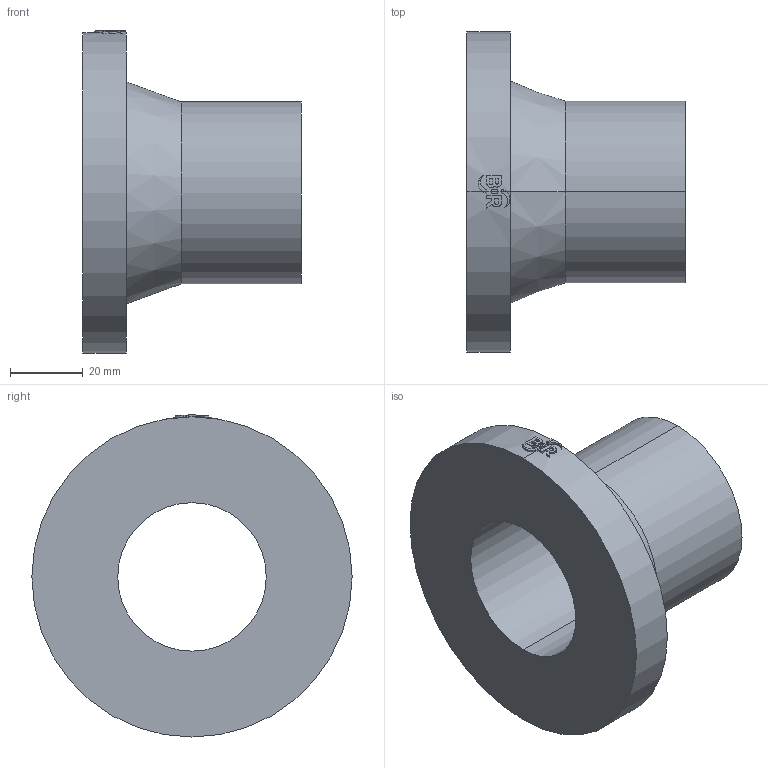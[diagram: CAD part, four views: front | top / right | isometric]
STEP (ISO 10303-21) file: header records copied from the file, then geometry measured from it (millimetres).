
FILE_DESCRIPTION (( 'STEP AP214' ), '1' );
FILE_NAME ('233510F015.STEP', '2018-07-20T12:19:17', ( '' ), ( '' ), 'SwSTEP 2.0', 'SolidWorks 2017', '' );
FILE_SCHEMA (( 'AUTOMOTIVE_DESIGN' ));
Length unit declared in the file: millimetre
Products named in the file (1): 233510F015
Bounding box: 60 x 88 x 88.5 mm (x, y, z)
Volume: 95757.3 mm3; surface area: 27605.9 mm2
Topology: 1 solids, 1 shells, 60 faces, 154 edges, 102 vertices
Faces by surface type: cylinder 29, plane 29, cone 2
Entity records: 2770 total; most frequent: CARTESIAN_POINT 653, ORIENTED_EDGE 308, DIRECTION 282, EDGE_CURVE 154, AXIS2_PLACEMENT_3D 107, VERTEX_POINT 102, LINE 68, EDGE_LOOP 68
